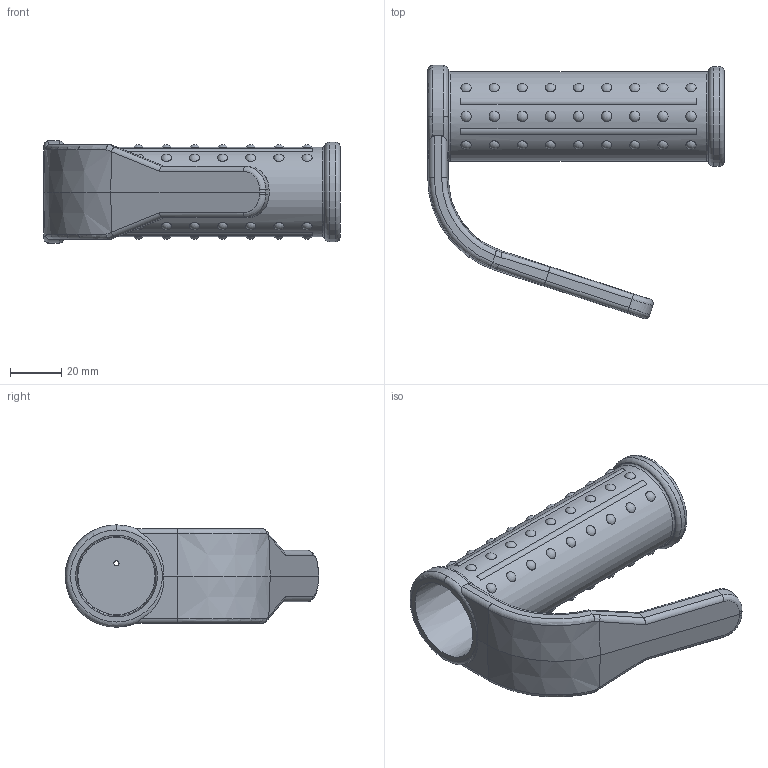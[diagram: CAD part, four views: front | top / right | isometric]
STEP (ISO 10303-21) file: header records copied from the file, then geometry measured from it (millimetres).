
FILE_DESCRIPTION( ('This file contains a STEP AP42 implementation' ,'as created by ZW3D STEP Interface translator.') ,'2;1' );
FILE_NAME( 'Rekojesc garda_.stp' ,'26 826. 83926', (''), ('ZWCAD Software Co.'), 'Version 1.0', 'ZW3D to STEP translator', '' );
FILE_SCHEMA(('AP242_MANAGED_MODEL_BASED_3D_ENGINEERING_MIM_LF { 1 0 10303 442 1 1 4 }'));
Length unit declared in the file: millimetre
Products named in the file (1): 0
Bounding box: 116 x 99.1 x 40 mm (x, y, z)
Volume: 52647 mm3; surface area: 34303.4 mm2
Topology: 1 solids, 1 shells, 135 faces, 256 edges, 173 vertices
Faces by surface type: sphere 54, plane 26, cylinder 24, bspline 12, torus 11, cone 8
Full cylindrical faces by diameter (mm): 2 x1, 35 x1, 39 x1
Entity records: 5311 total; most frequent: CARTESIAN_POINT 2624, ORIENTED_EDGE 512, DIRECTION 445, EDGE_CURVE 256, EDGE_LOOP 187, AXIS2_PLACEMENT_3D 184, VERTEX_POINT 173, FACE_OUTER_BOUND 135
